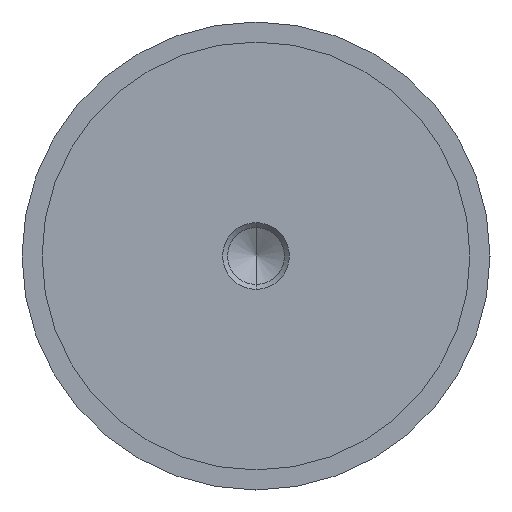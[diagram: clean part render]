
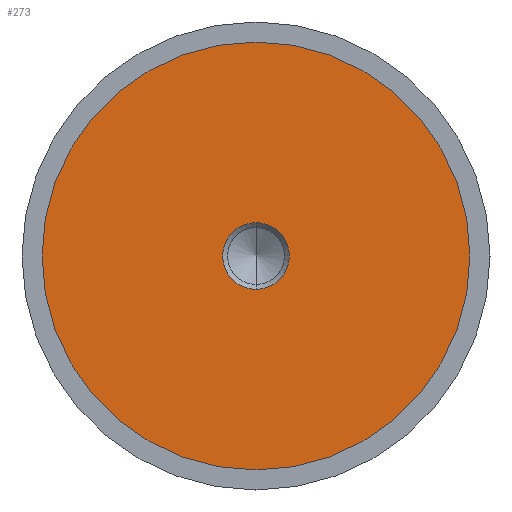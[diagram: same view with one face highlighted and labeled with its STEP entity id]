
A CAD part, left-side view. The second image highlights one B-rep face of the part: STEP entity #273.
In plain terms, the highlighted planar face has unit normal (-1, 0, 0).
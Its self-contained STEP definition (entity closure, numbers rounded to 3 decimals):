
#19 = CIRCLE ( 'NONE', #353, 4.99 ) ;
#22 = VERTEX_POINT ( 'NONE', #655 ) ;
#84 = DIRECTION ( 'NONE',  ( 1., 0., 0. ) ) ;
#119 = EDGE_LOOP ( 'NONE', ( #394, #656 ) ) ;
#152 = EDGE_CURVE ( 'NONE', #669, #696, #788, .T. ) ;
#156 = FACE_OUTER_BOUND ( 'NONE', #119, .T. ) ;
#162 = CARTESIAN_POINT ( 'NONE',  ( -17.49, 0., 4.99 ) ) ;
#225 = EDGE_CURVE ( 'NONE', #882, #22, #19, .T. ) ;
#233 = CARTESIAN_POINT ( 'NONE',  ( -17.49, 0., 0. ) ) ;
#236 = AXIS2_PLACEMENT_3D ( 'NONE', #485, #538, #332 ) ;
#250 = CARTESIAN_POINT ( 'NONE',  ( -17.49, 0., 32. ) ) ;
#273 = ADVANCED_FACE ( 'NONE', ( #695, #156 ), #443, .F. ) ;
#305 = DIRECTION ( 'NONE',  ( 0., 0., -1. ) ) ;
#319 = CIRCLE ( 'NONE', #610, 32. ) ;
#332 = DIRECTION ( 'NONE',  ( 0., 0., 1. ) ) ;
#340 = DIRECTION ( 'NONE',  ( -1., 0., 0. ) ) ;
#353 = AXIS2_PLACEMENT_3D ( 'NONE', #233, #633, #641 ) ;
#394 = ORIENTED_EDGE ( 'NONE', *, *, #586, .T. ) ;
#397 = AXIS2_PLACEMENT_3D ( 'NONE', #431, #84, #305 ) ;
#401 = CARTESIAN_POINT ( 'NONE',  ( -17.49, 0., -32. ) ) ;
#412 = CARTESIAN_POINT ( 'NONE',  ( -17.49, 0., 0. ) ) ;
#431 = CARTESIAN_POINT ( 'NONE',  ( -17.49, 32., 0. ) ) ;
#435 = CARTESIAN_POINT ( 'NONE',  ( -17.49, 0., 0. ) ) ;
#443 = PLANE ( 'NONE',  #397 ) ;
#484 = CIRCLE ( 'NONE', #693, 4.99 ) ;
#485 = CARTESIAN_POINT ( 'NONE',  ( -17.49, 0., 0. ) ) ;
#502 = DIRECTION ( 'NONE',  ( 1., 0., 0. ) ) ;
#538 = DIRECTION ( 'NONE',  ( -1., 0., 0. ) ) ;
#558 = EDGE_LOOP ( 'NONE', ( #868, #797 ) ) ;
#578 = DIRECTION ( 'NONE',  ( 0., 0., -1. ) ) ;
#586 = EDGE_CURVE ( 'NONE', #696, #669, #319, .T. ) ;
#610 = AXIS2_PLACEMENT_3D ( 'NONE', #412, #340, #680 ) ;
#633 = DIRECTION ( 'NONE',  ( 1., 0., 0. ) ) ;
#641 = DIRECTION ( 'NONE',  ( 0., 0., -1. ) ) ;
#655 = CARTESIAN_POINT ( 'NONE',  ( -17.49, 0., -4.99 ) ) ;
#656 = ORIENTED_EDGE ( 'NONE', *, *, #152, .T. ) ;
#669 = VERTEX_POINT ( 'NONE', #401 ) ;
#680 = DIRECTION ( 'NONE',  ( 0., 0., 1. ) ) ;
#693 = AXIS2_PLACEMENT_3D ( 'NONE', #435, #502, #578 ) ;
#695 = FACE_BOUND ( 'NONE', #558, .T. ) ;
#696 = VERTEX_POINT ( 'NONE', #250 ) ;
#788 = CIRCLE ( 'NONE', #236, 32. ) ;
#797 = ORIENTED_EDGE ( 'NONE', *, *, #853, .T. ) ;
#853 = EDGE_CURVE ( 'NONE', #22, #882, #484, .T. ) ;
#868 = ORIENTED_EDGE ( 'NONE', *, *, #225, .T. ) ;
#882 = VERTEX_POINT ( 'NONE', #162 ) ;
